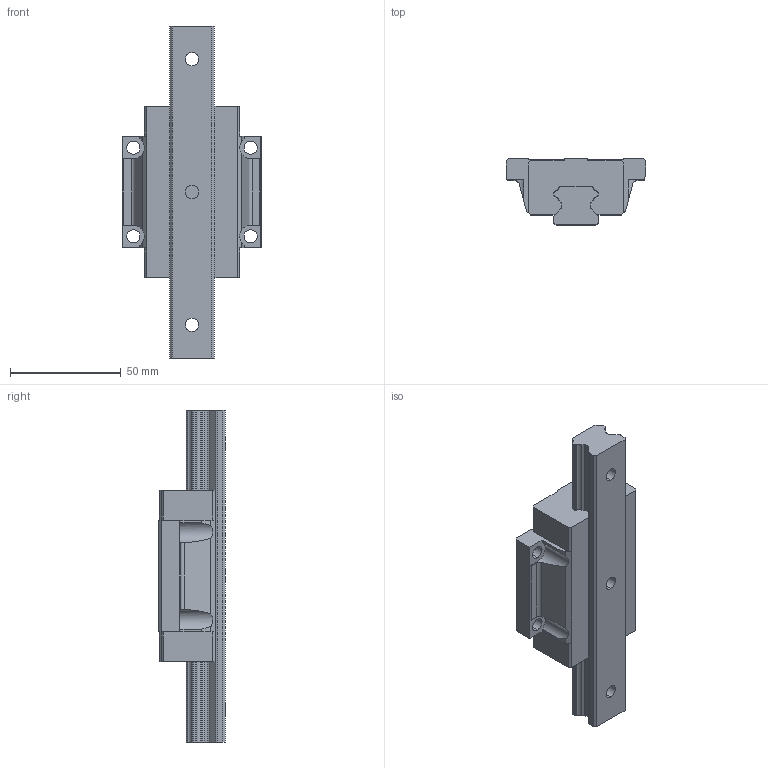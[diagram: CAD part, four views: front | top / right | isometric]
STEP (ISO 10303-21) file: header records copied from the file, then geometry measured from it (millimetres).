
FILE_DESCRIPTION (( 'STEP AP214' ), '1' );
FILE_NAME ('2.1002 Lineaarikelkka HGW20CC.STEP', '2025-09-19T06:40:00', ( '' ), ( '' ), 'SwSTEP 2.0', 'SolidWorks 2025', '' );
FILE_SCHEMA (( 'AUTOMOTIVE_DESIGN' ));
Length unit declared in the file: millimetre
Products named in the file (1): 2.1002 Lineaarikelkka HGW20CC
Bounding box: 63 x 30 x 150 mm (x, y, z)
Volume: 120404.1 mm3; surface area: 30393.8 mm2
Topology: 2 solids, 2 shells, 179 faces, 512 edges, 340 vertices
Faces by surface type: plane 107, cylinder 72
Entity records: 7904 total; most frequent: CARTESIAN_POINT 1097, ORIENTED_EDGE 1024, DIRECTION 996, EDGE_CURVE 512, VECTOR 356, LINE 356, VERTEX_POINT 340, AXIS2_PLACEMENT_3D 320
